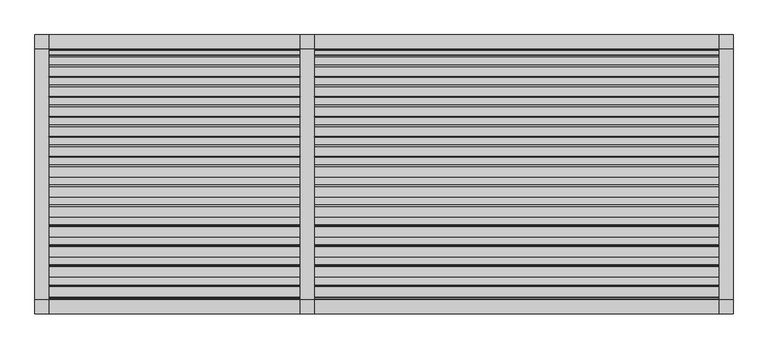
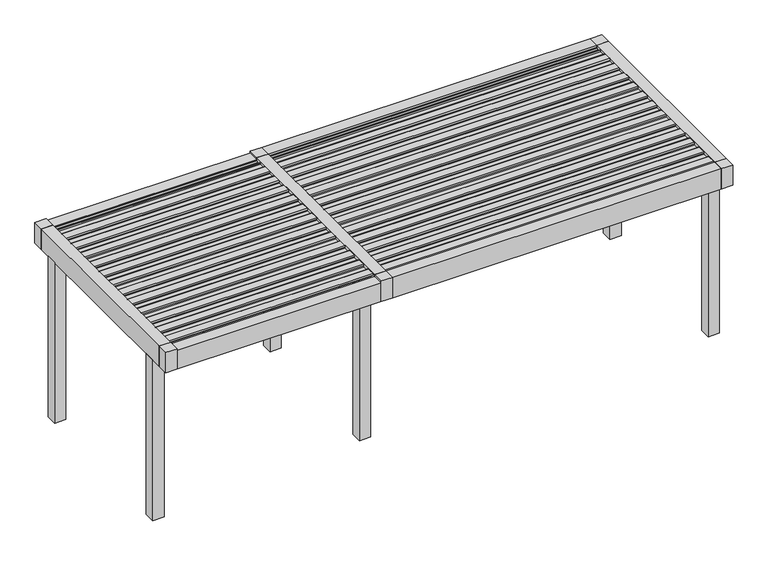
"""IFC4 building model written with IfcOpenShell, lengths in millimetres: proxy geometry, Renson_Amani_Patio_Cover : Renson_Amani_Patio_Cover."""

from ifc_helpers import new_model, si_unit, point, frame, frame_2d, origin, origin_with_axes, place, context, project, spatial, polyline, circle_curve, trimmed, segment, composite_curve, outline, extrude, source, transform, mapped, element, save


def generic_models_04456231(model_context):
    return source(origin(), model_context, "Body", "SweptSolid", [
        extrude(outline(composite_curve([segment(polyline([(-1073.7289238, 2483.35), (-1076.1490335, 2511.01198), (-1104.984284, 2512.3970364), (-1101.5469529, 2531.8911096), (-991.549838, 2526.6075693)]), True, "CONTINUOUS"), segment(trimmed(circle_curve(frame_2d((-992.26951, 2511.6248435)), 15.0), [point((-991.549838, 2526.6075693))], [point((-977.4973937, 2514.2295662))], False, "CARTESIAN"), True, "CONTINUOUS"), segment(polyline([(-977.4973937, 2514.2295662), (-974.1067023, 2495.0), (-886.3709263, 2495.0), (-883.3594689, 2512.0788237), (-868.0824984, 2511.3450182), (-865.6332517, 2483.35), (-1073.7289238, 2483.35)]), True, "CONTINUOUS")], self_intersect=False)), frame((1500.0, 0.0, 0.0), z_axis=(1.0, 0.0, 0.0), x_axis=(0.0, 1.0, 0.0)), (0.0, 0.0, 1.0), 4350.0),
        extrude(outline(composite_curve([segment(polyline([(-858.7132078, 2483.35), (-861.1333174, 2511.01198), (-889.9685679, 2512.3970364), (-886.5312368, 2531.8911096), (-776.534122, 2526.6075693)]), True, "CONTINUOUS"), segment(trimmed(circle_curve(frame_2d((-777.2537939, 2511.6248435)), 15.0), [point((-776.534122, 2526.6075693))], [point((-762.4816776, 2514.2295662))], False, "CARTESIAN"), True, "CONTINUOUS"), segment(polyline([(-762.4816776, 2514.2295662), (-759.0909863, 2495.0), (-671.3552102, 2495.0), (-668.3437528, 2512.0788237), (-653.0667824, 2511.3450182), (-650.6175356, 2483.35), (-858.7132078, 2483.35)]), True, "CONTINUOUS")], self_intersect=False)), frame((1500.0, 0.0, 0.0), z_axis=(1.0, 0.0, 0.0), x_axis=(0.0, 1.0, 0.0)), (0.0, 0.0, 1.0), 4350.0),
        extrude(outline(composite_curve([segment(polyline([(-643.6974917, 2483.35), (-646.1176014, 2511.01198), (-674.9528519, 2512.3970364), (-671.5155208, 2531.8911096), (-561.5184059, 2526.6075693)]), True, "CONTINUOUS"), segment(trimmed(circle_curve(frame_2d((-562.2380779, 2511.6248435)), 15.0), [point((-561.5184059, 2526.6075693))], [point((-547.4659616, 2514.2295662))], False, "CARTESIAN"), True, "CONTINUOUS"), segment(polyline([(-547.4659616, 2514.2295662), (-544.0752702, 2495.0), (-456.3394942, 2495.0), (-453.3280368, 2512.0788237), (-438.0510663, 2511.3450182), (-435.6018196, 2483.35), (-643.6974917, 2483.35)]), True, "CONTINUOUS")], self_intersect=False)), frame((1500.0, 0.0, 0.0), z_axis=(1.0, 0.0, 0.0), x_axis=(0.0, 1.0, 0.0)), (0.0, 0.0, 1.0), 4350.0),
        extrude(outline(composite_curve([segment(polyline([(-428.6817757, 2483.35), (-431.1018854, 2511.01198), (-459.9371358, 2512.3970364), (-456.4998047, 2531.8911096), (-346.5026899, 2526.6075693)]), True, "CONTINUOUS"), segment(trimmed(circle_curve(frame_2d((-347.2223618, 2511.6248435)), 15.0), [point((-346.5026899, 2526.6075693))], [point((-332.4502455, 2514.2295662))], False, "CARTESIAN"), True, "CONTINUOUS"), segment(polyline([(-332.4502455, 2514.2295662), (-329.0595542, 2495.0), (-241.3237782, 2495.0), (-238.3123207, 2512.0788237), (-223.0353503, 2511.3450182), (-220.5861035, 2483.35), (-428.6817757, 2483.35)]), True, "CONTINUOUS")], self_intersect=False)), frame((1500.0, 0.0, 0.0), z_axis=(1.0, 0.0, 0.0), x_axis=(0.0, 1.0, 0.0)), (0.0, 0.0, 1.0), 4350.0),
        extrude(outline(composite_curve([segment(polyline([(-213.6660597, 2483.35), (-216.0861693, 2511.01198), (-244.9214198, 2512.3970364), (-241.4840887, 2531.8911096), (-131.4869738, 2526.6075693)]), True, "CONTINUOUS"), segment(trimmed(circle_curve(frame_2d((-132.2066458, 2511.6248435)), 15.0), [point((-131.4869738, 2526.6075693))], [point((-117.4345295, 2514.2295662))], False, "CARTESIAN"), True, "CONTINUOUS"), segment(polyline([(-117.4345295, 2514.2295662), (-114.0438381, 2495.0), (-26.3080621, 2495.0), (-23.2966047, 2512.0788237), (-8.0196342, 2511.3450182), (-5.5703875, 2483.35), (-213.6660597, 2483.35)]), True, "CONTINUOUS")], self_intersect=False)), frame((1500.0, 0.0, 0.0), z_axis=(1.0, 0.0, 0.0), x_axis=(0.0, 1.0, 0.0)), (0.0, 0.0, 1.0), 4350.0),
        extrude(outline(composite_curve([segment(polyline([(1.3496564, 2483.35), (-1.0704533, 2511.01198), (-29.9057037, 2512.3970364), (-26.4683726, 2531.8911096), (83.5287422, 2526.6075693)]), True, "CONTINUOUS"), segment(trimmed(circle_curve(frame_2d((82.8090703, 2511.6248435)), 15.0), [point((83.5287422, 2526.6075693))], [point((97.5811866, 2514.2295662))], False, "CARTESIAN"), True, "CONTINUOUS"), segment(polyline([(97.5811866, 2514.2295662), (100.9718779, 2495.0), (188.7076539, 2495.0), (191.7191114, 2512.0788237), (206.9960818, 2511.3450182), (209.4453286, 2483.35), (1.3496564, 2483.35)]), True, "CONTINUOUS")], self_intersect=False)), frame((1500.0, 0.0, 0.0), z_axis=(1.0, 0.0, 0.0), x_axis=(0.0, 1.0, 0.0)), (0.0, 0.0, 1.0), 4350.0),
        extrude(outline(composite_curve([segment(polyline([(216.3653724, 2483.35), (213.9452628, 2511.01198), (185.1100123, 2512.3970364), (188.5473434, 2531.8911096), (298.5444582, 2526.6075693)]), True, "CONTINUOUS"), segment(trimmed(circle_curve(frame_2d((297.8247863, 2511.6248435)), 15.0), [point((298.5444582, 2526.6075693))], [point((312.5969026, 2514.2295662))], False, "CARTESIAN"), True, "CONTINUOUS"), segment(polyline([(312.5969026, 2514.2295662), (315.987594, 2495.0), (403.72337, 2495.0), (406.7348274, 2512.0788237), (422.0117979, 2511.3450182), (424.4610446, 2483.35), (216.3653724, 2483.35)]), True, "CONTINUOUS")], self_intersect=False)), frame((1500.0, 0.0, 0.0), z_axis=(1.0, 0.0, 0.0), x_axis=(0.0, 1.0, 0.0)), (0.0, 0.0, 1.0), 4350.0),
        extrude(outline(composite_curve([segment(polyline([(431.3810885, 2483.35), (428.9609788, 2511.01198), (400.1257284, 2512.3970364), (403.5630594, 2531.8911096), (513.5601743, 2526.6075693)]), True, "CONTINUOUS"), segment(trimmed(circle_curve(frame_2d((512.8405024, 2511.6248435)), 15.0), [point((513.5601743, 2526.6075693))], [point((527.6126187, 2514.2295662))], False, "CARTESIAN"), True, "CONTINUOUS"), segment(polyline([(527.6126187, 2514.2295662), (531.00331, 2495.0), (618.739086, 2495.0), (621.7505434, 2512.0788237), (637.0275139, 2511.3450182), (639.4767606, 2483.35), (431.3810885, 2483.35)]), True, "CONTINUOUS")], self_intersect=False)), frame((1500.0, 0.0, 0.0), z_axis=(1.0, 0.0, 0.0), x_axis=(0.0, 1.0, 0.0)), (0.0, 0.0, 1.0), 4350.0),
        extrude(outline(composite_curve([segment(polyline([(646.3968045, 2483.35), (643.9766949, 2511.01198), (615.1414444, 2512.3970364), (618.5787755, 2531.8911096), (728.5758903, 2526.6075693)]), True, "CONTINUOUS"), segment(trimmed(circle_curve(frame_2d((727.8562184, 2511.6248435)), 15.0), [point((728.5758903, 2526.6075693))], [point((742.6283347, 2514.2295662))], False, "CARTESIAN"), True, "CONTINUOUS"), segment(polyline([(742.6283347, 2514.2295662), (746.019026, 2495.0), (833.7548021, 2495.0), (836.7662595, 2512.0788237), (852.04323, 2511.3450182), (854.4924767, 2483.35), (646.3968045, 2483.35)]), True, "CONTINUOUS")], self_intersect=False)), frame((1500.0, 0.0, 0.0), z_axis=(1.0, 0.0, 0.0), x_axis=(0.0, 1.0, 0.0)), (0.0, 0.0, 1.0), 4350.0),
        extrude(outline(composite_curve([segment(polyline([(861.4125206, 2483.35), (858.9924109, 2511.01198), (830.1571605, 2512.3970364), (833.5944915, 2531.8911096), (943.5916064, 2526.6075693)]), True, "CONTINUOUS"), segment(trimmed(circle_curve(frame_2d((942.8719345, 2511.6248435)), 15.0), [point((943.5916064, 2526.6075693))], [point((957.6440508, 2514.2295662))], False, "CARTESIAN"), True, "CONTINUOUS"), segment(polyline([(957.6440508, 2514.2295662), (961.0347421, 2495.0), (1048.7705181, 2495.0), (1051.7819755, 2512.0788237), (1067.058946, 2511.3450182), (1069.5081927, 2483.35), (861.4125206, 2483.35)]), True, "CONTINUOUS")], self_intersect=False)), frame((1500.0, 0.0, 0.0), z_axis=(1.0, 0.0, 0.0), x_axis=(0.0, 1.0, 0.0)), (0.0, 0.0, 1.0), 4350.0),
        extrude(outline(composite_curve([segment(polyline([(-1288.7446399, 2483.35), (-1291.1647495, 2511.01198), (-1320.0, 2512.3970364), (-1316.5626689, 2531.8911096), (-1206.5655541, 2526.6075693)]), True, "CONTINUOUS"), segment(trimmed(circle_curve(frame_2d((-1207.285226, 2511.6248435)), 15.0), [point((-1206.5655541, 2526.6075693))], [point((-1192.5131097, 2514.2295662))], False, "CARTESIAN"), True, "CONTINUOUS"), segment(polyline([(-1192.5131097, 2514.2295662), (-1189.1224184, 2495.0), (-1101.3866423, 2495.0), (-1098.3751849, 2512.0788237), (-1083.0982144, 2511.3450182), (-1080.6489677, 2483.35), (-1288.7446399, 2483.35)]), True, "CONTINUOUS")], self_intersect=False)), frame((1500.0, 0.0, 0.0), z_axis=(1.0, 0.0, 0.0), x_axis=(0.0, 1.0, 0.0)), (0.0, 0.0, 1.0), 4350.0),
        extrude(outline(composite_curve([segment(polyline([(1076.4282366, 2483.35), (1074.008127, 2511.01198), (1045.1728765, 2512.3970364), (1048.6102076, 2531.8911096), (1158.6073224, 2526.6075693)]), True, "CONTINUOUS"), segment(trimmed(circle_curve(frame_2d((1157.8876505, 2511.6248435)), 15.0), [point((1158.6073224, 2526.6075693))], [point((1172.6597668, 2514.2295662))], False, "CARTESIAN"), True, "CONTINUOUS"), segment(polyline([(1172.6597668, 2514.2295662), (1176.0504581, 2495.0), (1263.7862342, 2495.0), (1266.7976916, 2512.0788237), (1282.0746621, 2511.3450182), (1284.5239088, 2483.35), (1076.4282366, 2483.35)]), True, "CONTINUOUS")], self_intersect=False)), frame((1500.0, 0.0, 0.0), z_axis=(1.0, 0.0, 0.0), x_axis=(0.0, 1.0, 0.0)), (0.0, 0.0, 1.0), 4350.0),
        extrude(outline(composite_curve([segment(polyline([(-1073.7289238, 2483.35), (-1076.1490335, 2511.01198), (-1104.984284, 2512.3970364), (-1101.5469529, 2531.8911096), (-991.549838, 2526.6075693)]), True, "CONTINUOUS"), segment(trimmed(circle_curve(frame_2d((-992.26951, 2511.6248435)), 15.0), [point((-991.549838, 2526.6075693))], [point((-977.4973937, 2514.2295662))], False, "CARTESIAN"), True, "CONTINUOUS"), segment(polyline([(-977.4973937, 2514.2295662), (-974.1067023, 2495.0), (-886.3709263, 2495.0), (-883.3594689, 2512.0788237), (-868.0824984, 2511.3450182), (-865.6332517, 2483.35), (-1073.7289238, 2483.35)]), True, "CONTINUOUS")], self_intersect=False)), frame((-1350.0, 0.0, 0.0), z_axis=(1.0, 0.0, 0.0), x_axis=(0.0, 1.0, 0.0)), (0.0, 0.0, 1.0), 2700.0),
        extrude(outline(composite_curve([segment(polyline([(-858.7132078, 2483.35), (-861.1333174, 2511.01198), (-889.9685679, 2512.3970364), (-886.5312368, 2531.8911096), (-776.534122, 2526.6075693)]), True, "CONTINUOUS"), segment(trimmed(circle_curve(frame_2d((-777.2537939, 2511.6248435)), 15.0), [point((-776.534122, 2526.6075693))], [point((-762.4816776, 2514.2295662))], False, "CARTESIAN"), True, "CONTINUOUS"), segment(polyline([(-762.4816776, 2514.2295662), (-759.0909863, 2495.0), (-671.3552102, 2495.0), (-668.3437528, 2512.0788237), (-653.0667824, 2511.3450182), (-650.6175356, 2483.35), (-858.7132078, 2483.35)]), True, "CONTINUOUS")], self_intersect=False)), frame((-1350.0, 0.0, 0.0), z_axis=(1.0, 0.0, 0.0), x_axis=(0.0, 1.0, 0.0)), (0.0, 0.0, 1.0), 2700.0),
        extrude(outline(composite_curve([segment(polyline([(-643.6974917, 2483.35), (-646.1176014, 2511.01198), (-674.9528519, 2512.3970364), (-671.5155208, 2531.8911096), (-561.5184059, 2526.6075693)]), True, "CONTINUOUS"), segment(trimmed(circle_curve(frame_2d((-562.2380779, 2511.6248435)), 15.0), [point((-561.5184059, 2526.6075693))], [point((-547.4659616, 2514.2295662))], False, "CARTESIAN"), True, "CONTINUOUS"), segment(polyline([(-547.4659616, 2514.2295662), (-544.0752702, 2495.0), (-456.3394942, 2495.0), (-453.3280368, 2512.0788237), (-438.0510663, 2511.3450182), (-435.6018196, 2483.35), (-643.6974917, 2483.35)]), True, "CONTINUOUS")], self_intersect=False)), frame((-1350.0, 0.0, 0.0), z_axis=(1.0, 0.0, 0.0), x_axis=(0.0, 1.0, 0.0)), (0.0, 0.0, 1.0), 2700.0),
        extrude(outline(composite_curve([segment(polyline([(-428.6817757, 2483.35), (-431.1018854, 2511.01198), (-459.9371358, 2512.3970364), (-456.4998047, 2531.8911096), (-346.5026899, 2526.6075693)]), True, "CONTINUOUS"), segment(trimmed(circle_curve(frame_2d((-347.2223618, 2511.6248435)), 15.0), [point((-346.5026899, 2526.6075693))], [point((-332.4502455, 2514.2295662))], False, "CARTESIAN"), True, "CONTINUOUS"), segment(polyline([(-332.4502455, 2514.2295662), (-329.0595542, 2495.0), (-241.3237782, 2495.0), (-238.3123207, 2512.0788237), (-223.0353503, 2511.3450182), (-220.5861035, 2483.35), (-428.6817757, 2483.35)]), True, "CONTINUOUS")], self_intersect=False)), frame((-1350.0, 0.0, 0.0), z_axis=(1.0, 0.0, 0.0), x_axis=(0.0, 1.0, 0.0)), (0.0, 0.0, 1.0), 2700.0),
        extrude(outline(composite_curve([segment(polyline([(-213.6660597, 2483.35), (-216.0861693, 2511.01198), (-244.9214198, 2512.3970364), (-241.4840887, 2531.8911096), (-131.4869738, 2526.6075693)]), True, "CONTINUOUS"), segment(trimmed(circle_curve(frame_2d((-132.2066458, 2511.6248435)), 15.0), [point((-131.4869738, 2526.6075693))], [point((-117.4345295, 2514.2295662))], False, "CARTESIAN"), True, "CONTINUOUS"), segment(polyline([(-117.4345295, 2514.2295662), (-114.0438381, 2495.0), (-26.3080621, 2495.0), (-23.2966047, 2512.0788237), (-8.0196342, 2511.3450182), (-5.5703875, 2483.35), (-213.6660597, 2483.35)]), True, "CONTINUOUS")], self_intersect=False)), frame((-1350.0, 0.0, 0.0), z_axis=(1.0, 0.0, 0.0), x_axis=(0.0, 1.0, 0.0)), (0.0, 0.0, 1.0), 2700.0),
        extrude(outline(composite_curve([segment(polyline([(1.3496564, 2483.35), (-1.0704533, 2511.01198), (-29.9057037, 2512.3970364), (-26.4683726, 2531.8911096), (83.5287422, 2526.6075693)]), True, "CONTINUOUS"), segment(trimmed(circle_curve(frame_2d((82.8090703, 2511.6248435)), 15.0), [point((83.5287422, 2526.6075693))], [point((97.5811866, 2514.2295662))], False, "CARTESIAN"), True, "CONTINUOUS"), segment(polyline([(97.5811866, 2514.2295662), (100.9718779, 2495.0), (188.7076539, 2495.0), (191.7191114, 2512.0788237), (206.9960818, 2511.3450182), (209.4453286, 2483.35), (1.3496564, 2483.35)]), True, "CONTINUOUS")], self_intersect=False)), frame((-1350.0, 0.0, 0.0), z_axis=(1.0, 0.0, 0.0), x_axis=(0.0, 1.0, 0.0)), (0.0, 0.0, 1.0), 2700.0),
        extrude(outline(composite_curve([segment(polyline([(216.3653724, 2483.35), (213.9452628, 2511.01198), (185.1100123, 2512.3970364), (188.5473434, 2531.8911096), (298.5444582, 2526.6075693)]), True, "CONTINUOUS"), segment(trimmed(circle_curve(frame_2d((297.8247863, 2511.6248435)), 15.0), [point((298.5444582, 2526.6075693))], [point((312.5969026, 2514.2295662))], False, "CARTESIAN"), True, "CONTINUOUS"), segment(polyline([(312.5969026, 2514.2295662), (315.987594, 2495.0), (403.72337, 2495.0), (406.7348274, 2512.0788237), (422.0117979, 2511.3450182), (424.4610446, 2483.35), (216.3653724, 2483.35)]), True, "CONTINUOUS")], self_intersect=False)), frame((-1350.0, 0.0, 0.0), z_axis=(1.0, 0.0, 0.0), x_axis=(0.0, 1.0, 0.0)), (0.0, 0.0, 1.0), 2700.0),
        extrude(outline(composite_curve([segment(polyline([(431.3810885, 2483.35), (428.9609788, 2511.01198), (400.1257284, 2512.3970364), (403.5630594, 2531.8911096), (513.5601743, 2526.6075693)]), True, "CONTINUOUS"), segment(trimmed(circle_curve(frame_2d((512.8405024, 2511.6248435)), 15.0), [point((513.5601743, 2526.6075693))], [point((527.6126187, 2514.2295662))], False, "CARTESIAN"), True, "CONTINUOUS"), segment(polyline([(527.6126187, 2514.2295662), (531.00331, 2495.0), (618.739086, 2495.0), (621.7505434, 2512.0788237), (637.0275139, 2511.3450182), (639.4767606, 2483.35), (431.3810885, 2483.35)]), True, "CONTINUOUS")], self_intersect=False)), frame((-1350.0, 0.0, 0.0), z_axis=(1.0, 0.0, 0.0), x_axis=(0.0, 1.0, 0.0)), (0.0, 0.0, 1.0), 2700.0),
        extrude(outline(composite_curve([segment(polyline([(646.3968045, 2483.35), (643.9766949, 2511.01198), (615.1414444, 2512.3970364), (618.5787755, 2531.8911096), (728.5758903, 2526.6075693)]), True, "CONTINUOUS"), segment(trimmed(circle_curve(frame_2d((727.8562184, 2511.6248435)), 15.0), [point((728.5758903, 2526.6075693))], [point((742.6283347, 2514.2295662))], False, "CARTESIAN"), True, "CONTINUOUS"), segment(polyline([(742.6283347, 2514.2295662), (746.019026, 2495.0), (833.7548021, 2495.0), (836.7662595, 2512.0788237), (852.04323, 2511.3450182), (854.4924767, 2483.35), (646.3968045, 2483.35)]), True, "CONTINUOUS")], self_intersect=False)), frame((-1350.0, 0.0, 0.0), z_axis=(1.0, 0.0, 0.0), x_axis=(0.0, 1.0, 0.0)), (0.0, 0.0, 1.0), 2700.0),
        extrude(outline(composite_curve([segment(polyline([(861.4125206, 2483.35), (858.9924109, 2511.01198), (830.1571605, 2512.3970364), (833.5944915, 2531.8911096), (943.5916064, 2526.6075693)]), True, "CONTINUOUS"), segment(trimmed(circle_curve(frame_2d((942.8719345, 2511.6248435)), 15.0), [point((943.5916064, 2526.6075693))], [point((957.6440508, 2514.2295662))], False, "CARTESIAN"), True, "CONTINUOUS"), segment(polyline([(957.6440508, 2514.2295662), (961.0347421, 2495.0), (1048.7705181, 2495.0), (1051.7819755, 2512.0788237), (1067.058946, 2511.3450182), (1069.5081927, 2483.35), (861.4125206, 2483.35)]), True, "CONTINUOUS")], self_intersect=False)), frame((-1350.0, 0.0, 0.0), z_axis=(1.0, 0.0, 0.0), x_axis=(0.0, 1.0, 0.0)), (0.0, 0.0, 1.0), 2700.0),
        extrude(outline(composite_curve([segment(polyline([(-1288.7446399, 2483.35), (-1291.1647495, 2511.01198), (-1320.0, 2512.3970364), (-1316.5626689, 2531.8911096), (-1206.5655541, 2526.6075693)]), True, "CONTINUOUS"), segment(trimmed(circle_curve(frame_2d((-1207.285226, 2511.6248435)), 15.0), [point((-1206.5655541, 2526.6075693))], [point((-1192.5131097, 2514.2295662))], False, "CARTESIAN"), True, "CONTINUOUS"), segment(polyline([(-1192.5131097, 2514.2295662), (-1189.1224184, 2495.0), (-1101.3866423, 2495.0), (-1098.3751849, 2512.0788237), (-1083.0982144, 2511.3450182), (-1080.6489677, 2483.35), (-1288.7446399, 2483.35)]), True, "CONTINUOUS")], self_intersect=False)), frame((-1350.0, 0.0, 0.0), z_axis=(1.0, 0.0, 0.0), x_axis=(0.0, 1.0, 0.0)), (0.0, 0.0, 1.0), 2700.0),
        extrude(outline(composite_curve([segment(polyline([(1076.4282366, 2483.35), (1074.008127, 2511.01198), (1045.1728765, 2512.3970364), (1048.6102076, 2531.8911096), (1158.6073224, 2526.6075693)]), True, "CONTINUOUS"), segment(trimmed(circle_curve(frame_2d((1157.8876505, 2511.6248435)), 15.0), [point((1158.6073224, 2526.6075693))], [point((1172.6597668, 2514.2295662))], False, "CARTESIAN"), True, "CONTINUOUS"), segment(polyline([(1172.6597668, 2514.2295662), (1176.0504581, 2495.0), (1263.7862342, 2495.0), (1266.7976916, 2512.0788237), (1282.0746621, 2511.3450182), (1284.5239088, 2483.35), (1076.4282366, 2483.35)]), True, "CONTINUOUS")], self_intersect=False)), frame((-1350.0, 0.0, 0.0), z_axis=(1.0, 0.0, 0.0), x_axis=(0.0, 1.0, 0.0)), (0.0, 0.0, 1.0), 2700.0),
        extrude(outline(polyline([(6000.0, -1050.0), (6000.0, -1200.0), (5850.0, -1200.0), (5850.0, -1050.0), (6000.0, -1050.0)])), origin_with_axes(), (0.0, 0.0, 1.0), 2250.0),
        extrude(outline(polyline([(6000.0, 1200.0), (6000.0, 1050.0), (5850.0, 1050.0), (5850.0, 1200.0), (6000.0, 1200.0)])), origin_with_axes(), (0.0, 0.0, 1.0), 2250.0),
        extrude(outline(polyline([(6000.0, -1350.0), (6000.0, -1500.0), (5850.0, -1500.0), (5850.0, -1350.0), (6000.0, -1350.0)])), frame((0.0, 0.0, 2250.0), z_axis=(0.0, 0.0, 1.0), x_axis=(1.0, 0.0, 0.0)), (0.0, 0.0, 1.0), 285.0),
        extrude(outline(polyline([(6000.0, 1350.0), (5850.0, 1350.0), (5850.0, 1500.0), (6000.0, 1500.0), (6000.0, 1350.0)])), frame((0.0, 0.0, 2250.0), z_axis=(0.0, 0.0, 1.0), x_axis=(1.0, 0.0, 0.0)), (0.0, 0.0, 1.0), 285.0),
        extrude(outline(polyline([(1500.0, 1500.0), (1500.0, 1350.0), (1350.0, 1350.0), (1350.0, 1500.0), (1500.0, 1500.0)])), frame((0.0, 0.0, 2250.0), z_axis=(0.0, 0.0, 1.0), x_axis=(1.0, 0.0, 0.0)), (0.0, 0.0, 1.0), 285.0),
        extrude(outline(polyline([(1500.0, -1350.0), (1500.0, -1500.0), (1350.0, -1500.0), (1350.0, -1350.0), (1500.0, -1350.0)])), frame((0.0, 0.0, 2250.0), z_axis=(0.0, 0.0, 1.0), x_axis=(1.0, 0.0, 0.0)), (0.0, 0.0, 1.0), 285.0),
        extrude(outline(polyline([(-1350.0, 1500.0), (-1350.0, 1350.0), (-1500.0, 1350.0), (-1500.0, 1500.0), (-1350.0, 1500.0)])), frame((0.0, 0.0, 2250.0), z_axis=(0.0, 0.0, 1.0), x_axis=(1.0, 0.0, 0.0)), (0.0, 0.0, 1.0), 285.0),
        extrude(outline(polyline([(-1350.0, -1500.0), (-1500.0, -1500.0), (-1500.0, -1350.0), (-1350.0, -1350.0), (-1350.0, -1500.0)])), frame((0.0, 0.0, 2250.0), z_axis=(0.0, 0.0, 1.0), x_axis=(1.0, 0.0, 0.0)), (0.0, 0.0, 1.0), 285.0),
        extrude(outline(polyline([(1500.0, -850.0), (1500.0, -1000.0), (1350.0, -1000.0), (1350.0, -850.0), (1500.0, -850.0)])), origin_with_axes(), (0.0, 0.0, 1.0), 2250.0),
        extrude(outline(polyline([(-1350.0, -1050.0), (-1350.0, -1200.0), (-1500.0, -1200.0), (-1500.0, -1050.0), (-1350.0, -1050.0)])), origin_with_axes(), (0.0, 0.0, 1.0), 2250.0),
        extrude(outline(polyline([(1500.0, 1200.0), (1500.0, 1050.0), (1350.0, 1050.0), (1350.0, 1200.0), (1500.0, 1200.0)])), origin_with_axes(), (0.0, 0.0, 1.0), 2250.0),
        extrude(outline(polyline([(-1350.0, 1200.0), (-1350.0, 1050.0), (-1500.0, 1050.0), (-1500.0, 1200.0), (-1350.0, 1200.0)])), origin_with_axes(), (0.0, 0.0, 1.0), 2250.0),
        extrude(outline(polyline([(1350.0, 2466.6559373), (1290.0, 2466.6559373), (1286.2487113, 2480.6555802), (1329.5940945, 2480.6555802), (1345.0, 2496.400763), (1345.0, 2504.2449277), (1350.0, 2504.6823598), (1350.0, 2466.6559373)])), frame((1500.0, 0.0, 0.0), z_axis=(1.0, 0.0, 0.0), x_axis=(0.0, 1.0, 0.0)), (0.0, 0.0, 1.0), 4350.0),
        extrude(outline(polyline([(5850.0, 1500.0), (5850.0, 1350.0), (1500.0, 1350.0), (1500.0, 1500.0), (5850.0, 1500.0)])), frame((0.0, 0.0, 2250.0), z_axis=(0.0, 0.0, 1.0), x_axis=(1.0, 0.0, 0.0)), (0.0, 0.0, 1.0), 285.0),
        extrude(outline(polyline([(-1350.0, 2250.0), (-1500.0, 2250.0), (-1500.0, 2535.0), (-1350.0, 2535.0), (-1350.0, 2504.6823598), (-1345.0, 2504.2449277), (-1345.0, 2496.400763), (-1329.2544156, 2480.6555802), (-1319.9090324, 2480.6555802), (-1323.6603211, 2466.6559373), (-1350.0, 2466.6559373), (-1350.0, 2250.0)])), frame((1500.0, 0.0, 0.0), z_axis=(1.0, 0.0, 0.0), x_axis=(0.0, 1.0, 0.0)), (0.0, 0.0, 1.0), 4350.0),
        extrude(outline(polyline([(2535.0, 1350.0), (2322.0, 1350.0), (2322.0, 1280.0000001), (2250.0, 1280.0000001), (2250.0, 1569.9999999), (2322.0, 1569.9999999), (2322.0, 1500.0), (2535.0, 1500.0), (2535.0, 1350.0)])), frame((0.0, -1350.0, 0.0), z_axis=(0.0, 1.0, 0.0), x_axis=(0.0, 0.0, 1.0)), (0.0, 0.0, 1.0), 2700.0),
        extrude(outline(polyline([(2535.0, 5850.0), (2322.0, 5850.0), (2322.0, 5780.0000001), (2250.0, 5780.0000001), (2250.0, 6000.0), (2535.0, 6000.0), (2535.0, 5850.0)])), frame((0.0, -1350.0, 0.0), z_axis=(0.0, 1.0, 0.0), x_axis=(0.0, 0.0, 1.0)), (0.0, 0.0, 1.0), 2700.0),
        extrude(outline(polyline([(1350.0, 2466.6559373), (1290.0, 2466.6559373), (1286.2487113, 2480.6555802), (1329.5940945, 2480.6555802), (1345.0, 2496.400763), (1345.0, 2504.2449277), (1350.0, 2504.6823598), (1350.0, 2466.6559373)])), frame((-1350.0, 0.0, 0.0), z_axis=(1.0, 0.0, 0.0), x_axis=(0.0, 1.0, 0.0)), (0.0, 0.0, 1.0), 2700.0),
        extrude(outline(polyline([(-1350.0, 2510.0), (-1350.0, 2479.6823598), (-1345.0, 2479.2449277), (-1345.0, 2471.400763), (-1329.2544156, 2455.6555802), (-1319.9090324, 2455.6555802), (-1323.6603211, 2441.6559373), (-1350.0, 2441.6559373), (-1350.0, 2250.0), (-1500.0, 2250.0), (-1500.0, 2510.0), (-1350.0, 2510.0)])), frame((-1350.0, 0.0, 0.0), z_axis=(1.0, 0.0, 0.0), x_axis=(0.0, 1.0, 0.0)), (0.0, 0.0, 1.0), 2700.0),
        extrude(outline(polyline([(1350.0, 1500.0), (1350.0, 1350.0), (-1350.0, 1350.0), (-1350.0, 1500.0), (1350.0, 1500.0)])), frame((0.0, 0.0, 2250.0), z_axis=(0.0, 0.0, 1.0), x_axis=(1.0, 0.0, 0.0)), (0.0, 0.0, 1.0), 260.0),
        extrude(outline(polyline([(2535.0, -1350.0), (2535.0, -1500.0), (2250.0, -1500.0), (2250.0, -1280.0000001), (2322.0, -1280.0000001), (2322.0, -1350.0), (2535.0, -1350.0)])), frame((0.0, -1350.0, 0.0), z_axis=(0.0, 1.0, 0.0), x_axis=(0.0, 0.0, 1.0)), (0.0, 0.0, 1.0), 2700.0),
        extrude(outline(polyline([(2250.0, 1500.0), (2535.0, 1500.0), (2535.0, 1350.0), (2322.0, 1350.0), (2322.0, 1280.0000001), (2250.0, 1280.0000001), (2250.0, 1500.0)])), frame((0.0, -1350.0, 0.0), z_axis=(0.0, 1.0, 0.0), x_axis=(0.0, 0.0, 1.0)), (0.0, 0.0, 1.0), 2700.0),
    ])


if __name__ == "__main__":
    model = new_model("IFC4")
    model_context = context("Model", 3, world=origin())
    ifc_project = project(units=[si_unit("LENGTHUNIT", "METRE", prefix="MILLI")], contexts=[model_context])
    site = spatial("IfcSite", under=ifc_project)
    building = spatial("IfcBuilding", under=site)
    placement = place(None, origin())
    generic_models_shape = generic_models_04456231(model_context)
    element("IfcBuildingElementProxy", 1, Name="Renson_Amani_Patio_Cover : Renson_Amani_Patio_Cover", ObjectType="Renson_Amani_Patio_Cover : Renson_Amani_Patio_Cover", at=placement, inside=building, context=model_context, shape_type="MappedRepresentation", body=[
        mapped(generic_models_shape, transform((0.0, 0.0, 0.0), x_axis=(1.0, 0.0, 0.0), y_axis=(0.0, 1.0, 0.0), z_axis=(0.0, 0.0, 1.0))),
    ])
    save(model, "model.ifc")
